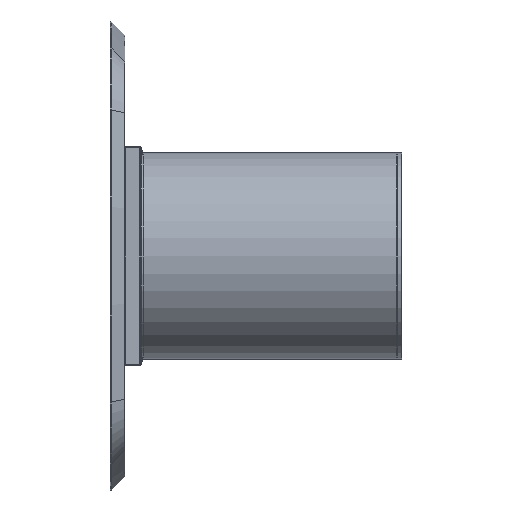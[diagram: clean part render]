
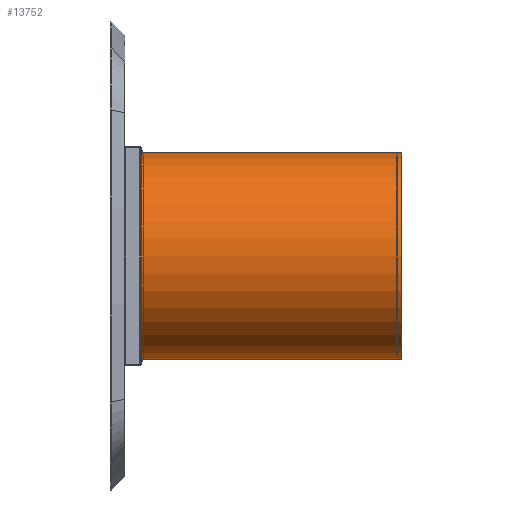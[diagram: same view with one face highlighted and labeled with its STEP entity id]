
A CAD part, left-side view. The second image highlights one B-rep face of the part: STEP entity #13752.
In plain terms, the highlighted cylindrical face has radius 265 mm (diameter 530 mm), a partial arc.
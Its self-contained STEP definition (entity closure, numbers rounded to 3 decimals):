
#117 = CARTESIAN_POINT ( 'NONE',  ( 0., 0., 0. ) ) ;
#204 = CARTESIAN_POINT ( 'NONE',  ( 0., 0., 265. ) ) ;
#1340 = FACE_OUTER_BOUND ( 'NONE', #17228, .T. ) ;
#2043 = VERTEX_POINT ( 'NONE', #9766 ) ;
#3272 = DIRECTION ( 'NONE',  ( 0., -1., 0. ) ) ;
#3528 = DIRECTION ( 'NONE',  ( 0., 0., 1. ) ) ;
#4491 = EDGE_CURVE ( 'NONE', #2043, #7752, #13914, .T. ) ;
#4672 = CARTESIAN_POINT ( 'NONE',  ( 0., 670., 0. ) ) ;
#4738 = VECTOR ( 'NONE', #3272, 1000. ) ;
#5438 = DIRECTION ( 'NONE',  ( 0., 1., 0. ) ) ;
#6278 = DIRECTION ( 'NONE',  ( 0., -1., 0. ) ) ;
#6491 = DIRECTION ( 'NONE',  ( 0., 0., -1. ) ) ;
#7752 = VERTEX_POINT ( 'NONE', #8105 ) ;
#7783 = EDGE_CURVE ( 'NONE', #2043, #12201, #8369, .T. ) ;
#8105 = CARTESIAN_POINT ( 'NONE',  ( 0., 670., 265. ) ) ;
#8159 = DIRECTION ( 'NONE',  ( 0., -1., 0. ) ) ;
#8369 = LINE ( 'NONE', #8454, #4738 ) ;
#8453 = ORIENTED_EDGE ( 'NONE', *, *, #4491, .F. ) ;
#8454 = CARTESIAN_POINT ( 'NONE',  ( 0., 670., -265. ) ) ;
#8618 = ORIENTED_EDGE ( 'NONE', *, *, #7783, .T. ) ;
#9766 = CARTESIAN_POINT ( 'NONE',  ( 0., 670., -265. ) ) ;
#9818 = EDGE_CURVE ( 'NONE', #12201, #13899, #12600, .T. ) ;
#10419 = CARTESIAN_POINT ( 'NONE',  ( 0., 670., 265. ) ) ;
#10927 = ORIENTED_EDGE ( 'NONE', *, *, #11354, .F. ) ;
#11354 = EDGE_CURVE ( 'NONE', #7752, #13899, #17057, .T. ) ;
#11687 = AXIS2_PLACEMENT_3D ( 'NONE', #4672, #13463, #3528 ) ;
#12201 = VERTEX_POINT ( 'NONE', #14123 ) ;
#12233 = ORIENTED_EDGE ( 'NONE', *, *, #9818, .T. ) ;
#12600 = CIRCLE ( 'NONE', #16227, 265. ) ;
#12709 = AXIS2_PLACEMENT_3D ( 'NONE', #14554, #8159, #6491 ) ;
#13463 = DIRECTION ( 'NONE',  ( 0., 1., 0. ) ) ;
#13752 = ADVANCED_FACE ( 'NONE', ( #1340 ), #16218, .T. ) ;
#13899 = VERTEX_POINT ( 'NONE', #204 ) ;
#13914 = CIRCLE ( 'NONE', #11687, 265. ) ;
#14123 = CARTESIAN_POINT ( 'NONE',  ( 0., 0., -265. ) ) ;
#14554 = CARTESIAN_POINT ( 'NONE',  ( 0., 670., 0. ) ) ;
#15781 = DIRECTION ( 'NONE',  ( 0., 0., 1. ) ) ;
#15997 = VECTOR ( 'NONE', #6278, 1000. ) ;
#16218 = CYLINDRICAL_SURFACE ( 'NONE', #12709, 265. ) ;
#16227 = AXIS2_PLACEMENT_3D ( 'NONE', #117, #5438, #15781 ) ;
#17057 = LINE ( 'NONE', #10419, #15997 ) ;
#17228 = EDGE_LOOP ( 'NONE', ( #10927, #8453, #8618, #12233 ) ) ;
